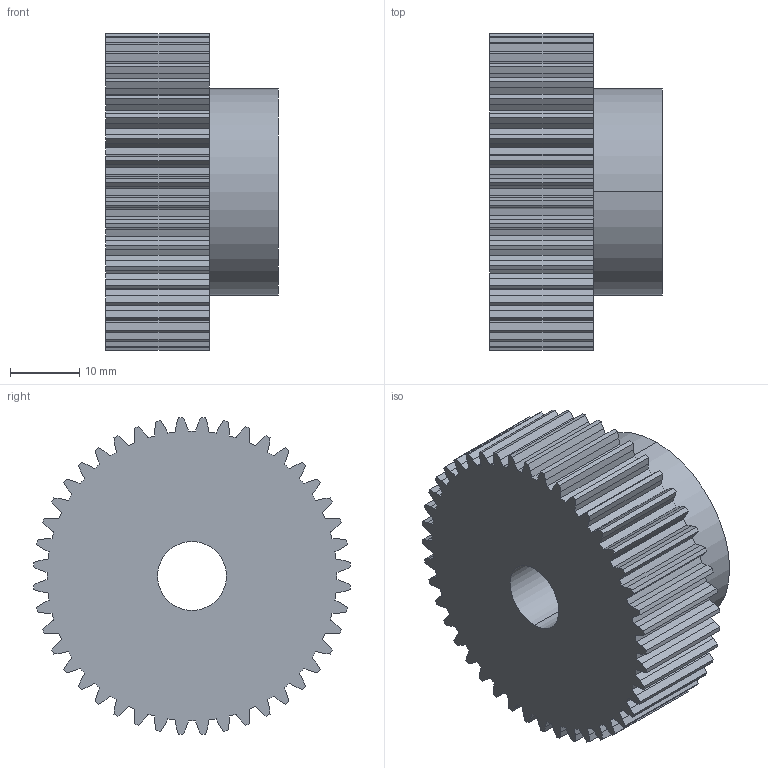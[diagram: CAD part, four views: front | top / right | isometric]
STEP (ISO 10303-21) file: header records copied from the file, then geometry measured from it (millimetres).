
FILE_DESCRIPTION (( 'STEP AP203' ), '1' );
FILE_NAME ('PM 26044.STEP', '2013-09-23T13:08:07', ( '' ), ( '' ), 'SwSTEP 2.0', 'SolidWorks 2010', '' );
FILE_SCHEMA (( 'CONFIG_CONTROL_DESIGN' ));
Length unit declared in the file: millimetre
Products named in the file (1): PM 26044
Bounding box: 25 x 45.93 x 45.93 mm (x, y, z)
Volume: 27704.2 mm3; surface area: 8495.3 mm2
Topology: 1 solids, 1 shells, 271 faces, 804 edges, 536 vertices
Faces by surface type: plane 179, cylinder 92
Entity records: 9145 total; most frequent: CARTESIAN_POINT 1618, ORIENTED_EDGE 1608, DIRECTION 1530, EDGE_CURVE 804, VECTOR 618, LINE 618, VERTEX_POINT 536, AXIS2_PLACEMENT_3D 456
